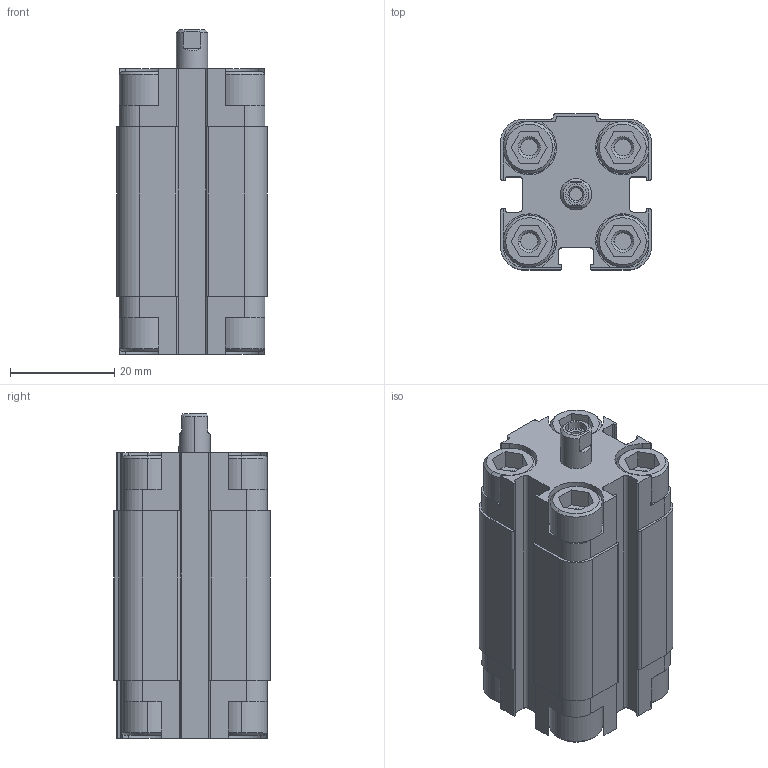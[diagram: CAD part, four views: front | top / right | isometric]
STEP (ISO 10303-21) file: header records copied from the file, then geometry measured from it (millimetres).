
FILE_DESCRIPTION (( 'STEP AP203' ), '1' );
FILE_NAME ('QF0120020A.step', '2012-10-18T17:02:53', ( '' ), ( '' ), 'SwSTEP 2.0', 'SolidWorks 2012', '' );
FILE_SCHEMA (( 'CONFIG_CONTROL_DESIGN' ));
Length unit declared in the file: millimetre
Products named in the file (1): QF0120020A
Bounding box: 29 x 30 x 62.3 mm (x, y, z)
Volume: 37304 mm3; surface area: 12993.6 mm2
Topology: 1 solids, 1 shells, 342 faces, 894 edges, 576 vertices
Faces by surface type: plane 194, cylinder 108, cone 40
Entity records: 10563 total; most frequent: DIRECTION 1850, CARTESIAN_POINT 1843, ORIENTED_EDGE 1788, EDGE_CURVE 894, AXIS2_PLACEMENT_3D 623, VECTOR 604, LINE 604, VERTEX_POINT 576
